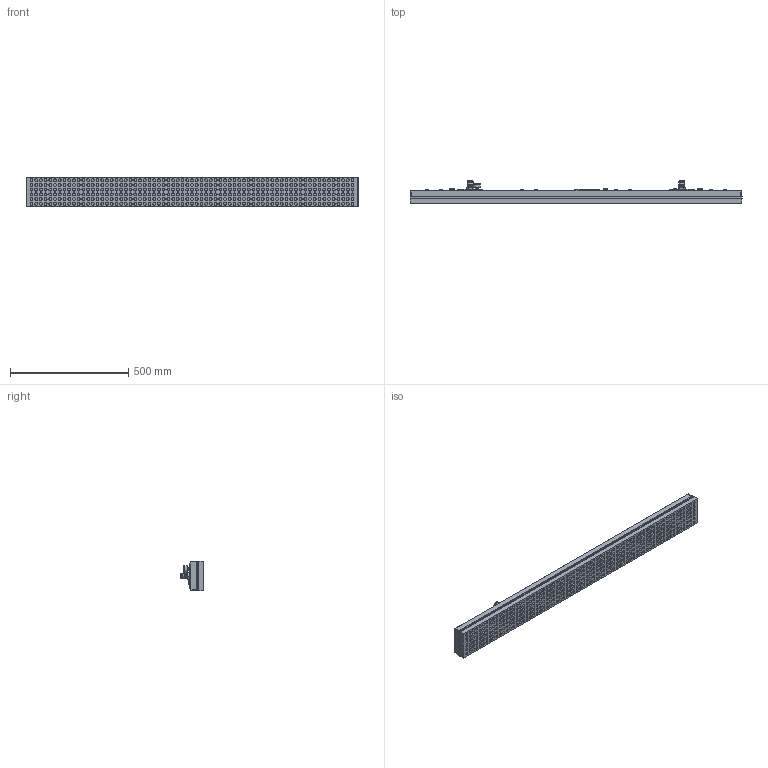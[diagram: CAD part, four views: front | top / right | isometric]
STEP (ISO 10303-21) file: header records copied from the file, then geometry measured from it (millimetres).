
FILE_DESCRIPTION (( 'STEP AP203' ), '1' );
FILE_NAME ('3-9-23867.STEP', '2014-03-12T10:25:53', ( '' ), ( '' ), 'SwSTEP 2.0', 'SolidWorks 2014', '' );
FILE_SCHEMA (( 'CONFIG_CONTROL_DESIGN' ));
Length unit declared in the file: millimetre
Products named in the file (1): 3-9-23867
Bounding box: 1406 x 97 x 126 mm (x, y, z)
Volume: 8827037.7 mm3; surface area: 932068.4 mm2
Topology: 1 solids, 1 shells, 1166 faces, 2421 edges, 1733 vertices
Faces by surface type: plane 639, cylinder 489, cone 30, bspline 8
Full cylindrical faces by diameter (mm): 8 x16, 9.77 x1, 10.7 x1, 12 x414, 15 x8, 18 x3, 25 x2, 27 x1, 29 x1, 30 x1
Entity records: 26183 total; most frequent: CARTESIAN_POINT 4935, DIRECTION 4746, ORIENTED_EDGE 2992, AXIS2_PLACEMENT_3D 2167, EDGE_LOOP 2120, FACE_OUTER_BOUND 1614, EDGE_CURVE 1496, VERTEX_POINT 1286
